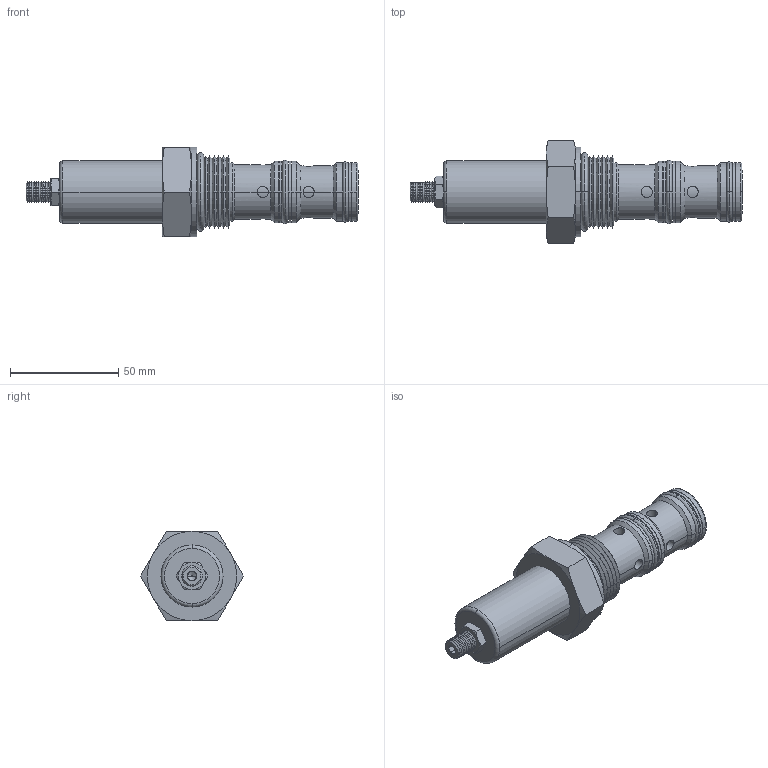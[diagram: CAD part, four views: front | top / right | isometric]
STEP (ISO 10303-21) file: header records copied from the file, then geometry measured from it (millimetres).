
FILE_DESCRIPTION((''),'2;1');
FILE_NAME('U:\Solid model CD\Solid model full\Mechanical\STEP\SKPRP00-3D Full.stp','2008-07-29T10:00:51',('Dan'),(''),'Autodesk Inventor 9','Autodesk Inventor 9','');
FILE_SCHEMA(('AUTOMOTIVE_DESIGN { 1 0 10303 214 1 1 1 1 }'));
Length unit declared in the file: inch
Products named in the file (8): SKPRP00-3D Full; SKPRP00-3D Full1; SKPRP00-3D Full2; SKPRP00-3D Full3; SKPRP00-3D Full4; SKPRP00-3D Full5; SKPRP00-3D Full6; SKPRP00-3D Full7
Assembly tree (7 placements, depth 2):
  SKPRP00-3D Full
    SKPRP00-3D Full1
    SKPRP00-3D Full2
    SKPRP00-3D Full3
    SKPRP00-3D Full4
    SKPRP00-3D Full5
    SKPRP00-3D Full6
    SKPRP00-3D Full7
Bounding box: 153.42 x 47.66 x 41.27 mm (x, y, z)
Volume: 96709.7 mm3; surface area: 23045.8 mm2
Topology: 7 solids, 7 shells, 257 faces, 560 edges, 330 vertices
Faces by surface type: cone 116, cylinder 74, plane 49, torus 18
Entity records: 7584 total; most frequent: CARTESIAN_POINT 1882, DIRECTION 1231, ORIENTED_EDGE 1120, EDGE_CURVE 560, AXIS2_PLACEMENT_3D 527, VERTEX_POINT 330, EDGE_LOOP 282, FACE_OUTER_BOUND 257
